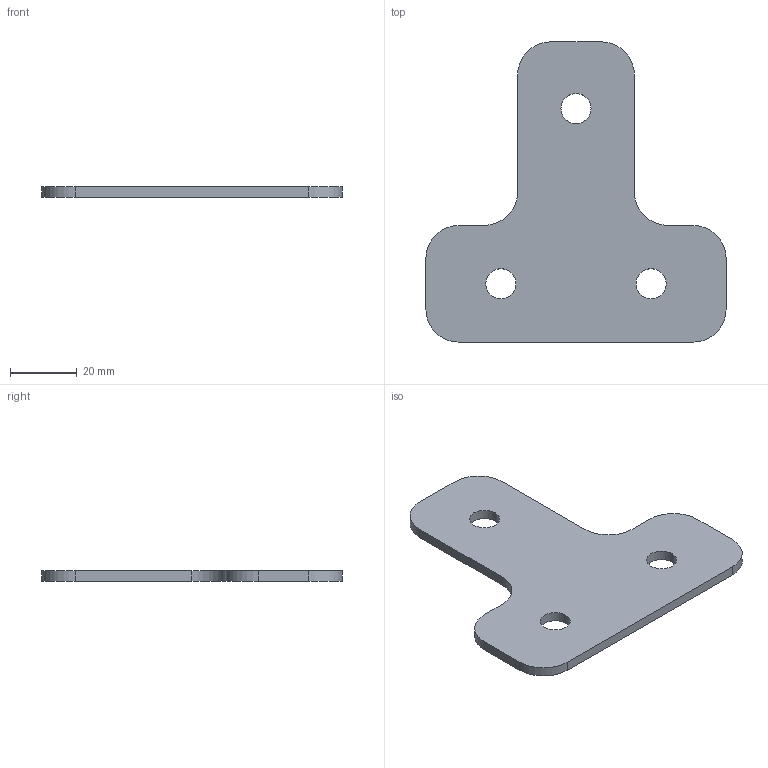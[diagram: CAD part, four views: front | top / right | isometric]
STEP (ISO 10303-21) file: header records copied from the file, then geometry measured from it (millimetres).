
FILE_DESCRIPTION (( 'STEP AP214' ), '1' );
FILE_NAME ('1285.001.102.STEP', '2019-05-23T15:26:57', ( '' ), ( '' ), 'SwSTEP 2.0', 'SolidWorks 2018', '' );
FILE_SCHEMA (( 'AUTOMOTIVE_DESIGN' ));
Length unit declared in the file: millimetre
Products named in the file (1): 1285.001.102
Bounding box: 90 x 90 x 3 mm (x, y, z)
Volume: 14394.9 mm3; surface area: 10828.1 mm2
Topology: 1 solids, 1 shells, 24 faces, 66 edges, 44 vertices
Faces by surface type: cylinder 14, plane 10
Entity records: 824 total; most frequent: DIRECTION 144, CARTESIAN_POINT 135, ORIENTED_EDGE 132, EDGE_CURVE 66, AXIS2_PLACEMENT_3D 53, VERTEX_POINT 44, VECTOR 38, LINE 38
